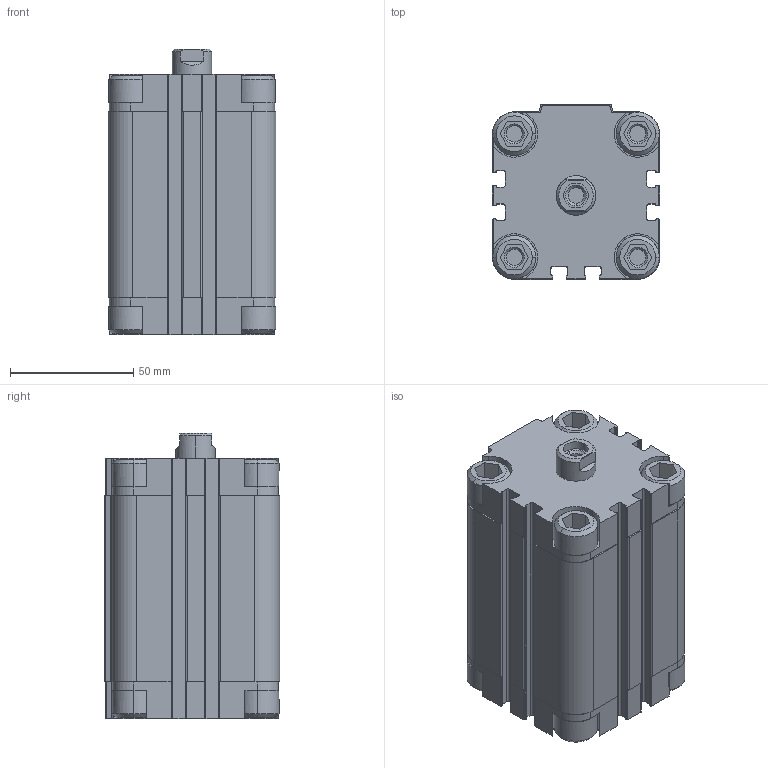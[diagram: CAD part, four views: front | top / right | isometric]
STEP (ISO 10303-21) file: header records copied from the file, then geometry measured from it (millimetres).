
FILE_DESCRIPTION (( 'STEP AP203' ), '1' );
FILE_NAME ('QF0500060A.step', '2012-10-18T17:06:02', ( '' ), ( '' ), 'SwSTEP 2.0', 'SolidWorks 2012', '' );
FILE_SCHEMA (( 'CONFIG_CONTROL_DESIGN' ));
Length unit declared in the file: millimetre
Products named in the file (1): QF0500060A
Bounding box: 68 x 71 x 115.8 mm (x, y, z)
Volume: 449748.6 mm3; surface area: 55215.4 mm2
Topology: 1 solids, 1 shells, 558 faces, 1514 edges, 976 vertices
Faces by surface type: plane 304, cylinder 202, cone 52
Entity records: 17939 total; most frequent: CARTESIAN_POINT 3439, DIRECTION 3102, ORIENTED_EDGE 3020, EDGE_CURVE 1510, AXIS2_PLACEMENT_3D 1075, VERTEX_POINT 976, LINE 952, VECTOR 952
